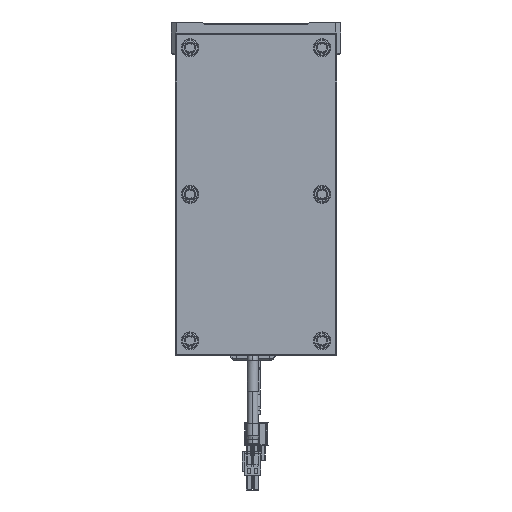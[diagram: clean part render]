
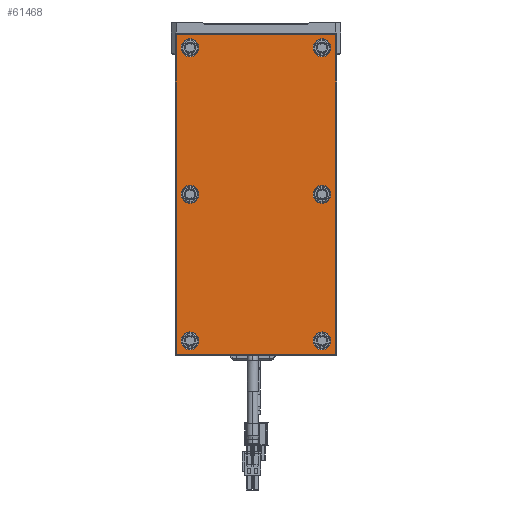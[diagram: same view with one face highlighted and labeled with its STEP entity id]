
A CAD part, front view. The second image highlights one B-rep face of the part: STEP entity #61468.
In plain terms, the highlighted planar face has unit normal (0, -1, 0).
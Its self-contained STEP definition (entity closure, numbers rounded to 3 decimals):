
#60057=CARTESIAN_POINT('',(99.,-7.,-49.));
#60058=DIRECTION('',(0.,-1.,0.));
#60059=DIRECTION('',(0.,0.,-1.));
#60060=AXIS2_PLACEMENT_3D('',#60057,#60058,#60059);
#60062=DIRECTION('',(1.,0.,0.));
#60063=VECTOR('',#60062,198.);
#60064=CARTESIAN_POINT('',(-99.,-7.,
-49.5));
#60065=LINE('',#60064,#60063);
#60066=CARTESIAN_POINT('',(-99.,-7.,-49.));
#60067=DIRECTION('',(0.,-1.,0.));
#60068=DIRECTION('',(-1.,0.,0.));
#60069=AXIS2_PLACEMENT_3D('',#60066,#60067,#60068);
#60071=DIRECTION('',(0.,0.,-1.));
#60072=VECTOR('',#60071,98.);
#60073=CARTESIAN_POINT('',(-99.5,-7.,
49.));
#60074=LINE('',#60073,#60072);
#60075=CARTESIAN_POINT('',(-99.,-7.,49.));
#60076=DIRECTION('',(0.,-1.,0.));
#60077=DIRECTION('',(0.,0.,1.));
#60078=AXIS2_PLACEMENT_3D('',#60075,#60076,#60077);
#60080=DIRECTION('',(-1.,0.,0.));
#60081=VECTOR('',#60080,198.);
#60082=CARTESIAN_POINT('',(99.,-7.,
49.5));
#60083=LINE('',#60082,#60081);
#60084=CARTESIAN_POINT('',(99.,-7.,49.));
#60085=DIRECTION('',(0.,-1.,0.));
#60086=DIRECTION('',(1.,0.,0.));
#60087=AXIS2_PLACEMENT_3D('',#60084,#60085,#60086);
#60089=DIRECTION('',(0.,0.,1.));
#60090=VECTOR('',#60089,98.);
#60091=CARTESIAN_POINT('',(99.5,-7.,
-49.));
#60092=LINE('',#60091,#60090);
#60093=CARTESIAN_POINT('',(-91.,-7.,-41.));
#60094=DIRECTION('',(0.,1.,0.));
#60095=DIRECTION('',(1.,0.,0.));
#60096=AXIS2_PLACEMENT_3D('',#60093,#60094,#60095);
#60098=CARTESIAN_POINT('',(-91.,-7.,-41.));
#60099=DIRECTION('',(0.,1.,0.));
#60100=DIRECTION('',(-1.,0.,0.));
#60101=AXIS2_PLACEMENT_3D('',#60098,#60099,#60100);
#60103=CARTESIAN_POINT('',(0.,-7.,-41.));
#60104=DIRECTION('',(0.,1.,0.));
#60105=DIRECTION('',(1.,0.,0.));
#60106=AXIS2_PLACEMENT_3D('',#60103,#60104,#60105);
#60108=CARTESIAN_POINT('',(0.,-7.,-41.));
#60109=DIRECTION('',(0.,1.,0.));
#60110=DIRECTION('',(-1.,0.,0.));
#60111=AXIS2_PLACEMENT_3D('',#60108,#60109,#60110);
#60113=CARTESIAN_POINT('',(91.,-7.,-41.));
#60114=DIRECTION('',(0.,1.,0.));
#60115=DIRECTION('',(1.,0.,0.));
#60116=AXIS2_PLACEMENT_3D('',#60113,#60114,#60115);
#60118=CARTESIAN_POINT('',(91.,-7.,-41.));
#60119=DIRECTION('',(0.,1.,0.));
#60120=DIRECTION('',(-1.,0.,0.));
#60121=AXIS2_PLACEMENT_3D('',#60118,#60119,#60120);
#60123=CARTESIAN_POINT('',(91.,-7.,41.));
#60124=DIRECTION('',(0.,1.,0.));
#60125=DIRECTION('',(1.,0.,0.));
#60126=AXIS2_PLACEMENT_3D('',#60123,#60124,#60125);
#60128=CARTESIAN_POINT('',(91.,-7.,41.));
#60129=DIRECTION('',(0.,1.,0.));
#60130=DIRECTION('',(-1.,0.,0.));
#60131=AXIS2_PLACEMENT_3D('',#60128,#60129,#60130);
#60133=CARTESIAN_POINT('',(0.,-7.,41.));
#60134=DIRECTION('',(0.,1.,0.));
#60135=DIRECTION('',(1.,0.,0.));
#60136=AXIS2_PLACEMENT_3D('',#60133,#60134,#60135);
#60138=CARTESIAN_POINT('',(0.,-7.,41.));
#60139=DIRECTION('',(0.,1.,0.));
#60140=DIRECTION('',(-1.,0.,0.));
#60141=AXIS2_PLACEMENT_3D('',#60138,#60139,#60140);
#60143=CARTESIAN_POINT('',(-91.,-7.,41.));
#60144=DIRECTION('',(0.,1.,0.));
#60145=DIRECTION('',(1.,0.,0.));
#60146=AXIS2_PLACEMENT_3D('',#60143,#60144,#60145);
#60148=CARTESIAN_POINT('',(-91.,-7.,41.));
#60149=DIRECTION('',(0.,1.,0.));
#60150=DIRECTION('',(-1.,0.,0.));
#60151=AXIS2_PLACEMENT_3D('',#60148,#60149,#60150);
#61209=CARTESIAN_POINT('',(99.,-7.,-49.5));
#61210=CARTESIAN_POINT('',(99.5,-7.,-49.));
#61211=VERTEX_POINT('',#61209);
#61212=VERTEX_POINT('',#61210);
#61217=CARTESIAN_POINT('',(99.5,-7.,
49.));
#61218=VERTEX_POINT('',#61217);
#61221=CARTESIAN_POINT('',(99.,-7.,49.5));
#61222=VERTEX_POINT('',#61221);
#61225=CARTESIAN_POINT('',(-99.,-7.,
49.5));
#61226=VERTEX_POINT('',#61225);
#61229=CARTESIAN_POINT('',(-99.5,-7.,49.));
#61230=VERTEX_POINT('',#61229);
#61233=CARTESIAN_POINT('',(-99.5,-7.,
-49.));
#61234=VERTEX_POINT('',#61233);
#61237=CARTESIAN_POINT('',(-99.,-7.,-49.5));
#61238=VERTEX_POINT('',#61237);
#61265=CARTESIAN_POINT('',(-85.45,-7.,-41.));
#61266=CARTESIAN_POINT('',(-96.55,-7.,-41.));
#61267=VERTEX_POINT('',#61265);
#61268=VERTEX_POINT('',#61266);
#61281=CARTESIAN_POINT('',(5.55,-7.,-41.));
#61282=CARTESIAN_POINT('',(-5.55,-7.,-41.));
#61283=VERTEX_POINT('',#61281);
#61284=VERTEX_POINT('',#61282);
#61305=CARTESIAN_POINT('',(96.55,-7.,-41.));
#61306=CARTESIAN_POINT('',(85.45,-7.,-41.));
#61307=VERTEX_POINT('',#61305);
#61308=VERTEX_POINT('',#61306);
#61321=CARTESIAN_POINT('',(96.55,-7.,41.));
#61322=CARTESIAN_POINT('',(85.45,-7.,41.));
#61323=VERTEX_POINT('',#61321);
#61324=VERTEX_POINT('',#61322);
#61329=CARTESIAN_POINT('',(5.55,-7.,41.));
#61330=CARTESIAN_POINT('',(-5.55,-7.,41.));
#61331=VERTEX_POINT('',#61329);
#61332=VERTEX_POINT('',#61330);
#61353=CARTESIAN_POINT('',(-85.45,-7.,41.));
#61354=CARTESIAN_POINT('',(-96.55,-7.,41.));
#61355=VERTEX_POINT('',#61353);
#61356=VERTEX_POINT('',#61354);
#61409=CARTESIAN_POINT('',(0.,-7.,0.));
#61410=DIRECTION('',(0.,1.,0.));
#61411=DIRECTION('',(1.,0.,0.));
#61412=AXIS2_PLACEMENT_3D('',#61409,#61410,#61411);
#61413=PLANE('',#61412);
#61415=ORIENTED_EDGE('',*,*,#61414,.F.);
#61417=ORIENTED_EDGE('',*,*,#61416,.F.);
#61419=ORIENTED_EDGE('',*,*,#61418,.F.);
#61421=ORIENTED_EDGE('',*,*,#61420,.F.);
#61423=ORIENTED_EDGE('',*,*,#61422,.F.);
#61425=ORIENTED_EDGE('',*,*,#61424,.F.);
#61427=ORIENTED_EDGE('',*,*,#61426,.F.);
#61429=ORIENTED_EDGE('',*,*,#61428,.F.);
#61430=EDGE_LOOP('',(#61415,#61417,#61419,#61421,#61423,#61425,#61427,#61429));
#61431=FACE_OUTER_BOUND('',#61430,.F.);
#61433=ORIENTED_EDGE('',*,*,#61432,.F.);
#61435=ORIENTED_EDGE('',*,*,#61434,.F.);
#61436=EDGE_LOOP('',(#61433,#61435));
#61437=FACE_BOUND('',#61436,.F.);
#61439=ORIENTED_EDGE('',*,*,#61438,.F.);
#61441=ORIENTED_EDGE('',*,*,#61440,.F.);
#61442=EDGE_LOOP('',(#61439,#61441));
#61443=FACE_BOUND('',#61442,.F.);
#61445=ORIENTED_EDGE('',*,*,#61444,.F.);
#61447=ORIENTED_EDGE('',*,*,#61446,.F.);
#61448=EDGE_LOOP('',(#61445,#61447));
#61449=FACE_BOUND('',#61448,.F.);
#61451=ORIENTED_EDGE('',*,*,#61450,.F.);
#61453=ORIENTED_EDGE('',*,*,#61452,.F.);
#61454=EDGE_LOOP('',(#61451,#61453));
#61455=FACE_BOUND('',#61454,.F.);
#61457=ORIENTED_EDGE('',*,*,#61456,.F.);
#61459=ORIENTED_EDGE('',*,*,#61458,.F.);
#61460=EDGE_LOOP('',(#61457,#61459));
#61461=FACE_BOUND('',#61460,.F.);
#61463=ORIENTED_EDGE('',*,*,#61462,.F.);
#61465=ORIENTED_EDGE('',*,*,#61464,.F.);
#61466=EDGE_LOOP('',(#61463,#61465));
#61467=FACE_BOUND('',#61466,.F.);
#61468=ADVANCED_FACE('',(#61431,#61437,#61443,#61449,#61455,#61461,#61467),
#61413,.F.);
#60061=CIRCLE('',#60060,0.5);
#60070=CIRCLE('',#60069,0.5);
#60079=CIRCLE('',#60078,0.5);
#60088=CIRCLE('',#60087,0.5);
#60097=CIRCLE('',#60096,5.55);
#60102=CIRCLE('',#60101,5.55);
#60107=CIRCLE('',#60106,5.55);
#60112=CIRCLE('',#60111,5.55);
#60117=CIRCLE('',#60116,5.55);
#60122=CIRCLE('',#60121,5.55);
#60127=CIRCLE('',#60126,5.55);
#60132=CIRCLE('',#60131,5.55);
#60137=CIRCLE('',#60136,5.55);
#60142=CIRCLE('',#60141,5.55);
#60147=CIRCLE('',#60146,5.55);
#60152=CIRCLE('',#60151,5.55);
#61414=EDGE_CURVE('',#61211,#61212,#60061,.T.);
#61416=EDGE_CURVE('',#61238,#61211,#60065,.T.);
#61418=EDGE_CURVE('',#61234,#61238,#60070,.T.);
#61420=EDGE_CURVE('',#61230,#61234,#60074,.T.);
#61422=EDGE_CURVE('',#61226,#61230,#60079,.T.);
#61424=EDGE_CURVE('',#61222,#61226,#60083,.T.);
#61426=EDGE_CURVE('',#61218,#61222,#60088,.T.);
#61428=EDGE_CURVE('',#61212,#61218,#60092,.T.);
#61432=EDGE_CURVE('',#61267,#61268,#60097,.T.);
#61434=EDGE_CURVE('',#61268,#61267,#60102,.T.);
#61438=EDGE_CURVE('',#61283,#61284,#60107,.T.);
#61440=EDGE_CURVE('',#61284,#61283,#60112,.T.);
#61444=EDGE_CURVE('',#61307,#61308,#60117,.T.);
#61446=EDGE_CURVE('',#61308,#61307,#60122,.T.);
#61450=EDGE_CURVE('',#61323,#61324,#60127,.T.);
#61452=EDGE_CURVE('',#61324,#61323,#60132,.T.);
#61456=EDGE_CURVE('',#61331,#61332,#60137,.T.);
#61458=EDGE_CURVE('',#61332,#61331,#60142,.T.);
#61462=EDGE_CURVE('',#61355,#61356,#60147,.T.);
#61464=EDGE_CURVE('',#61356,#61355,#60152,.T.);
